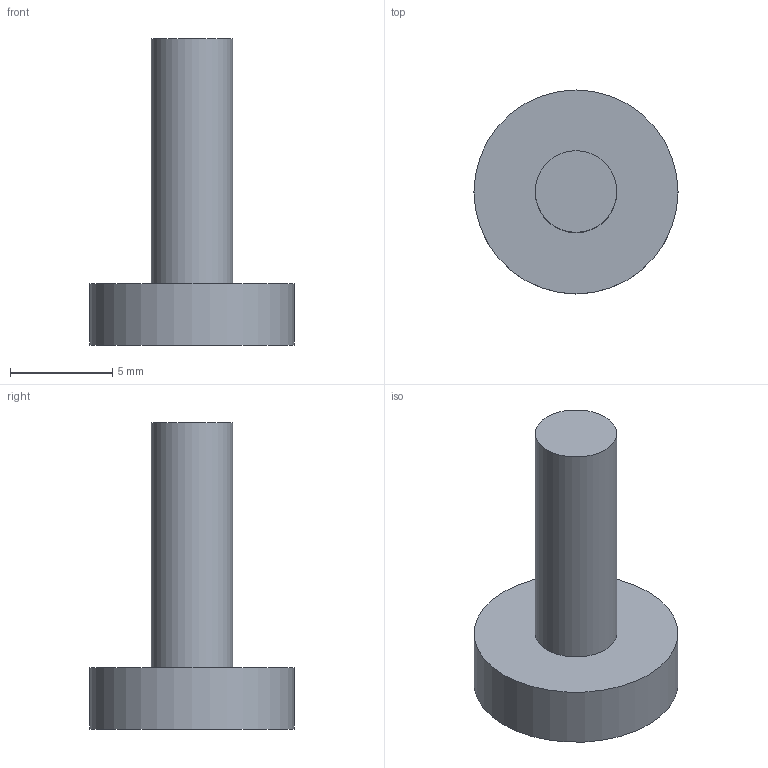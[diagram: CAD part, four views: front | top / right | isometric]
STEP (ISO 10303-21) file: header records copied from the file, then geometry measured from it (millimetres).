
FILE_DESCRIPTION(('Open CASCADE Model'),'2;1');
FILE_NAME('Open CASCADE Shape Model','2026-09-25T05:27:18',('Author'),( 'Open CASCADE'),'Open CASCADE STEP processor 7.8','Open CASCADE 7.8' ,'Unknown');
FILE_SCHEMA(('AUTOMOTIVE_DESIGN { 1 0 10303 214 1 1 1 1 }'));
Length unit declared in the file: millimetre
Products named in the file (1): Open CASCADE STEP translator 7.8 3
Bounding box: 10 x 10 x 15 mm (x, y, z)
Volume: 386.4 mm3; surface area: 402.1 mm2
Topology: 1 solids, 1 shells, 5 faces, 6 edges, 4 vertices
Faces by surface type: plane 3, cylinder 2
Full cylindrical faces by diameter (mm): 4 x1, 10 x1
Entity records: 192 total; most frequent: DIRECTION 34, CARTESIAN_POINT 28, ORIENTED_EDGE 12, PCURVE 12, DEFINITIONAL_REPRESENTATION 12, AXIS2_PLACEMENT_3D 10, LINE 10, VECTOR 10
